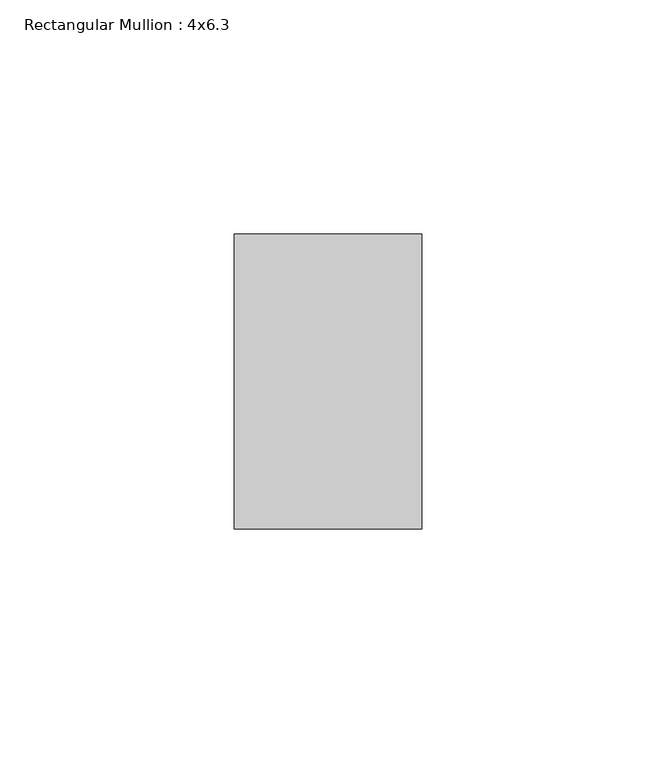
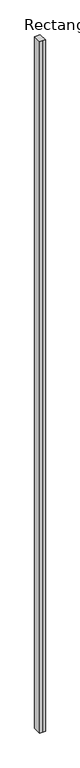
"""IFC4 building model written with IfcOpenShell, lengths in millimetres: member geometry, Rectangular Mullion : 4x6.3."""

import ifcopenshell
import ifcopenshell.guid

model = None  # the IFC model being written
_history = None  # IfcOwnerHistory: only IFC2X3 demands one
_inside = {}  # id of a spatial element -> (the spatial element, [elements in it])
_under = {}  # id of a project, library or spatial element -> (it, [spatial elements below it])
_declared = {}  # id of a project -> (the project, [libraries it declares])
_typed = {}  # id of a type object -> (the type object, [elements of that type])
_made_of = {}  # id of a material, layer set ... -> (it, [elements and type objects made of it])


def new_model(schema):
    """Start an empty IFC model of exactly this schema.

    Asked for "IFC4X3", IfcOpenShell would pick the latest addendum, in which some entities
    have other attributes; the version numbers below select the first issue.
    IFC2X3 requires an IfcOwnerHistory on every rooted entity: one is made here for all.
    """
    global model, _history
    if schema == "IFC4X3":
        model = ifcopenshell.file(schema_version=(4, 3, 0, 0))
    else:
        model = ifcopenshell.file(schema=schema)
    _inside.clear()
    _under.clear()
    _declared.clear()
    _typed.clear()
    _made_of.clear()
    _history = None
    if model.schema == "IFC2X3":
        org = make("IfcOrganization", Name="unknown")
        user = make(
            "IfcPersonAndOrganization",
            ThePerson=make("IfcPerson", FamilyName="unknown"),
            TheOrganization=org,
        )
        app = make(
            "IfcApplication",
            ApplicationDeveloper=org,
            Version="unknown",
            ApplicationFullName="unknown",
            ApplicationIdentifier="unknown",
        )
        _history = make(
            "IfcOwnerHistory",
            OwningUser=user,
            OwningApplication=app,
            ChangeAction="ADDED",
            CreationDate=0,
        )
    return model


def make(cls, **values):
    """One entity of the class cls with the attributes given. An attribute that is None is left unset."""
    return model.create_entity(
        cls, **{name: value for name, value in values.items() if value is not None}
    )


def rooted(cls, **values):
    """An entity with a GlobalId (a new one), such as an element, a storey or a relation."""
    return make(cls, GlobalId=ifcopenshell.guid.new(), OwnerHistory=_history, **values)


def si_unit(unit_type, name, prefix=None):
    """IfcSIUnit, for example si_unit("LENGTHUNIT", "METRE", prefix="MILLI")."""
    return make("IfcSIUnit", UnitType=unit_type, Prefix=prefix, Name=name)


def assignment(units):
    """IfcUnitAssignment: the units of a project."""
    return None if units is None else make("IfcUnitAssignment", Units=units)


def point(xyz):
    """IfcCartesianPoint."""
    return None if xyz is None else make("IfcCartesianPoint", Coordinates=xyz)


def direction(xyz):
    """IfcDirection."""
    return None if xyz is None else make("IfcDirection", DirectionRatios=xyz)


def frame(location, z_axis=None, x_axis=None):
    """IfcAxis2Placement3D, a coordinate frame: its origin and axes. An axis left out is left unset."""
    return make(
        "IfcAxis2Placement3D",
        Location=point(location),
        Axis=direction(z_axis),
        RefDirection=direction(x_axis),
    )


def origin():
    """The frame at (0, 0, 0) with its axes left unset."""
    return frame((0.0, 0.0, 0.0))


def place(relative_to, where):
    """IfcLocalPlacement: puts the frame where relative to a parent placement (None: the world)."""
    return make(
        "IfcLocalPlacement", PlacementRelTo=relative_to, RelativePlacement=where
    )


def context(
    kind, dimensions, precision=None, world=None, true_north=None, identifier=None
):
    """IfcGeometricRepresentationContext, for example the 3D "Model" context."""
    return make(
        "IfcGeometricRepresentationContext",
        ContextIdentifier=identifier,
        ContextType=kind,
        CoordinateSpaceDimension=dimensions,
        Precision=precision,
        WorldCoordinateSystem=world,
        TrueNorth=true_north,
    )


def project(units=None, contexts=None):
    """IfcProject with its units and contexts."""
    return rooted(
        "IfcProject",
        Name="project",
        RepresentationContexts=contexts,
        UnitsInContext=assignment(units),
    )


def spatial(cls, under=None, at=None, **own):
    """A site, building, storey or space (cls), placed at a placement, below another one or the project."""
    s = rooted(cls, ObjectPlacement=at, **own)
    if under is not None:
        _under.setdefault(under.id(), (under, []))[1].append(s)
    return s


def polyline(points):
    """IfcPolyline through the points."""
    return make("IfcPolyline", Points=[point(p) for p in points])


def outline(outer, holes=None, kind="AREA"):
    """IfcArbitraryClosedProfileDef: a profile drawn as a closed curve; with holes, ...WithVoids."""
    if holes is None:
        return make("IfcArbitraryClosedProfileDef", ProfileType=kind, OuterCurve=outer)
    return make(
        "IfcArbitraryProfileDefWithVoids",
        ProfileType=kind,
        OuterCurve=outer,
        InnerCurves=holes,
    )


def extrude(swept, where, along, depth):
    """IfcExtrudedAreaSolid: the profile swept, set in the frame where, extruded along a direction by depth."""
    return make(
        "IfcExtrudedAreaSolid",
        SweptArea=swept,
        Position=where,
        ExtrudedDirection=direction(along),
        Depth=depth,
    )


def shape(context_of_items, identifier, shape_type, items):
    """IfcShapeRepresentation: the items that make up one representation, for example the "Body"."""
    return make(
        "IfcShapeRepresentation",
        ContextOfItems=context_of_items,
        RepresentationIdentifier=identifier,
        RepresentationType=shape_type,
        Items=items,
    )


def source(mapping_origin, context_of_items, identifier, shape_type, items):
    """IfcRepresentationMap: a shape defined once, which mapped items show again and again."""
    return make(
        "IfcRepresentationMap",
        MappingOrigin=mapping_origin,
        MappedRepresentation=shape(context_of_items, identifier, shape_type, items),
    )


def transform(
    local_origin,
    x_axis=None,
    y_axis=None,
    z_axis=None,
    scale=None,
    scale2=None,
    scale3=None,
    uniform=True,
):
    """IfcCartesianTransformationOperator3D, or its non-uniform kind. x_axis, y_axis, z_axis: its Axis1, 2, 3."""
    if uniform:
        return make(
            "IfcCartesianTransformationOperator3D",
            Axis1=direction(x_axis),
            Axis2=direction(y_axis),
            LocalOrigin=point(local_origin),
            Scale=scale,
            Axis3=direction(z_axis),
        )
    return make(
        "IfcCartesianTransformationOperator3DnonUniform",
        Axis1=direction(x_axis),
        Axis2=direction(y_axis),
        LocalOrigin=point(local_origin),
        Scale=scale,
        Axis3=direction(z_axis),
        Scale2=scale2,
        Scale3=scale3,
    )


def mapped(mapping_source, mapping_target):
    """IfcMappedItem: shows the shape of a source again, moved by a transform."""
    return make(
        "IfcMappedItem", MappingSource=mapping_source, MappingTarget=mapping_target
    )


def made_of(thing, what):
    """Note that an element or type object is made of a material, layer set ...; save() writes the relation."""
    if what is not None:
        _made_of.setdefault(what.id(), (what, []))[1].append(thing)
    return thing


def element(
    cls,
    number,
    at=None,
    inside=None,
    cuts=None,
    type_object=None,
    material=None,
    context=None,
    identifier="Body",
    shape_type=None,
    held_by="IfcProductDefinitionShape",
    body=None,
    shapes=None,
    **own,
):
    """One element of the class cls, such as IfcWall. Its Tag is "e" and its number.

    at: its placement. inside: the storey or other place that contains it. cuts: it is an
    opening in that element (IfcRelVoidsElement). A single representation is given by context,
    identifier, shape_type and body (its items); several are given by shapes. held_by: the class
    of the entity that holds the representations. save() writes the other relations.
    """
    e = rooted(cls, Tag="e%d" % number, ObjectPlacement=at, **own)
    if body is not None:
        shapes = [shape(context, identifier, shape_type, body)]
    if shapes is not None:
        e.Representation = make(held_by, Representations=shapes)
    if inside is not None:
        _inside.setdefault(inside.id(), (inside, []))[1].append(e)
    if cuts is not None:
        rooted(
            "IfcRelVoidsElement", RelatingBuildingElement=cuts, RelatedOpeningElement=e
        )
    if type_object is not None:
        _typed.setdefault(type_object.id(), (type_object, []))[1].append(e)
    return made_of(e, material)


def aggregate(whole, parts):
    """IfcRelAggregates: a whole, such as a stair, and the parts it consists of."""
    return rooted("IfcRelAggregates", RelatingObject=whole, RelatedObjects=parts)


def save(model, path):
    """Write the relations noted so far, then the file.

    IfcRelAggregates (storeys below a building ...), IfcRelContainedInSpatialStructure (elements
    in a storey), IfcRelDefinesByType, IfcRelAssociatesMaterial and IfcRelDeclares: one each for
    every whole, place, type object, material and project.
    """
    for whole, parts in _under.values():
        aggregate(whole, parts)
    for where, things in _inside.values():
        rooted(
            "IfcRelContainedInSpatialStructure",
            RelatedElements=things,
            RelatingStructure=where,
        )
    for kind, things in _typed.values():
        rooted("IfcRelDefinesByType", RelatedObjects=things, RelatingType=kind)
    for what, things in _made_of.values():
        rooted("IfcRelAssociatesMaterial", RelatedObjects=things, RelatingMaterial=what)
    for by, libraries in _declared.values():
        rooted("IfcRelDeclares", RelatingContext=by, RelatedDefinitions=libraries)
    model.write(path)


def rectangular_mullion_4x6_3_732e7410(model_context):
    return source(origin(), model_context, "Body", "SweptSolid", [
        extrude(outline(polyline([(-20.0, 20.0), (-20.0, 83.0), (20.0, 83.0), (20.0, 20.0), (0.0, 20.0), (-20.0, 20.0)])), frame((0.0, 0.0, -5261.0527142), z_axis=(0.0, 0.0, 1.0), x_axis=(1.0, 0.0, 0.0)), (0.0, 0.0, 1.0), 5261.0527142),
    ])


if __name__ == "__main__":
    model = new_model("IFC4")
    model_context = context("Model", 3, world=origin())
    ifc_project = project(units=[si_unit("LENGTHUNIT", "METRE", prefix="MILLI")], contexts=[model_context])
    site = spatial("IfcSite", under=ifc_project)
    building = spatial("IfcBuilding", under=site)
    placement = place(None, origin())
    rectangular_mullion_4x6_3_shape = rectangular_mullion_4x6_3_732e7410(model_context)
    element("IfcMember", 1, ObjectType="Rectangular Mullion : 4x6.3", at=placement, inside=building, context=model_context, shape_type="MappedRepresentation", body=[
        mapped(rectangular_mullion_4x6_3_shape, transform((0.0, 0.0, 0.0), x_axis=(1.0, 0.0, 0.0), y_axis=(0.0, 1.0, 0.0), z_axis=(0.0, 0.0, 1.0))),
    ])
    save(model, "model.ifc")
